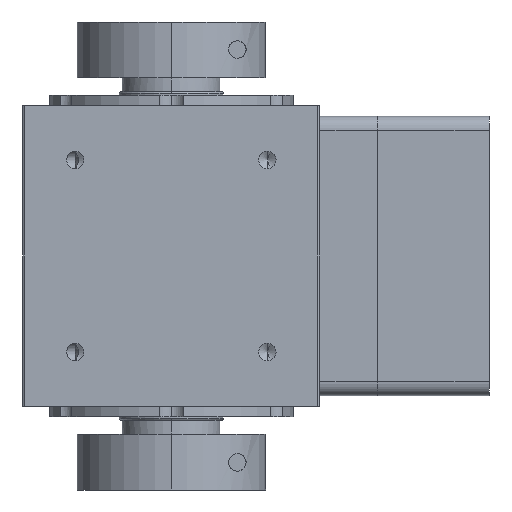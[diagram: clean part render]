
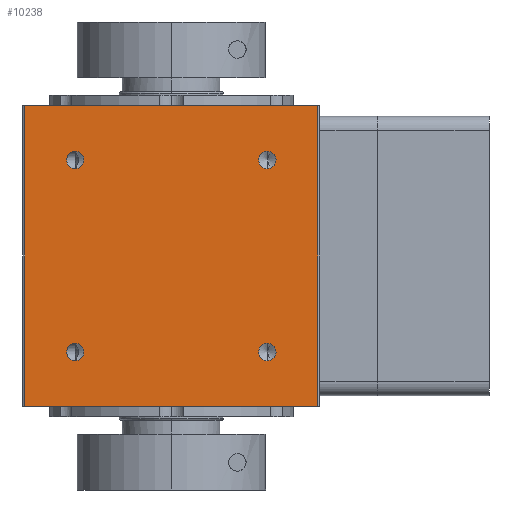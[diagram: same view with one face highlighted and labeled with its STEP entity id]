
A CAD part, left-side view. The second image highlights one B-rep face of the part: STEP entity #10238.
In plain terms, the highlighted planar face has unit normal (-1, 0, 0).
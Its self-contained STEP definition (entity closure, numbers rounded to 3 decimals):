
#7 = ORIENTED_EDGE ( 'NONE', *, *, #12200, .F. ) ;
#129 = ORIENTED_EDGE ( 'NONE', *, *, #9479, .T. ) ;
#309 = CIRCLE ( 'NONE', #2994, 2.5 ) ;
#519 = DIRECTION ( 'NONE',  ( -1., 0., 0. ) ) ;
#570 = DIRECTION ( 'NONE',  ( 0., 0., 1. ) ) ;
#633 = AXIS2_PLACEMENT_3D ( 'NONE', #14093, #4833, #12992 ) ;
#683 = VECTOR ( 'NONE', #6564, 1000. ) ;
#725 = DIRECTION ( 'NONE',  ( 0., 0., 1. ) ) ;
#897 = CARTESIAN_POINT ( 'NONE',  ( -42.5, 42.5, -43. ) ) ;
#1311 = CARTESIAN_POINT ( 'NONE',  ( -42.5, 42.5, 43. ) ) ;
#1706 = CIRCLE ( 'NONE', #6720, 2.5 ) ;
#1839 = CARTESIAN_POINT ( 'NONE',  ( -42.5, 27.5, -27.5 ) ) ;
#1932 = CIRCLE ( 'NONE', #9617, 2.5 ) ;
#2209 = FACE_BOUND ( 'NONE', #9442, .T. ) ;
#2391 = DIRECTION ( 'NONE',  ( -1., 0., 0. ) ) ;
#2413 = VECTOR ( 'NONE', #11438, 1000. ) ;
#2491 = DIRECTION ( 'NONE',  ( 0., 0., 1. ) ) ;
#2616 = ORIENTED_EDGE ( 'NONE', *, *, #6781, .F. ) ;
#2675 = CARTESIAN_POINT ( 'NONE',  ( -42.5, -27.5, 27.5 ) ) ;
#2952 = EDGE_CURVE ( 'NONE', #5175, #7455, #13159, .T. ) ;
#2994 = AXIS2_PLACEMENT_3D ( 'NONE', #7353, #10766, #14133 ) ;
#3146 = LINE ( 'NONE', #897, #2413 ) ;
#3628 = AXIS2_PLACEMENT_3D ( 'NONE', #11157, #9964, #570 ) ;
#3634 = DIRECTION ( 'NONE',  ( 0., 0., -1. ) ) ;
#3687 = CIRCLE ( 'NONE', #633, 2.5 ) ;
#3796 = DIRECTION ( 'NONE',  ( 0., -1., 0. ) ) ;
#3852 = VERTEX_POINT ( 'NONE', #4919 ) ;
#3897 = CARTESIAN_POINT ( 'NONE',  ( -42.5, 42., 43. ) ) ;
#3972 = VERTEX_POINT ( 'NONE', #9859 ) ;
#4290 = EDGE_CURVE ( 'NONE', #3852, #4830, #4526, .T. ) ;
#4526 = LINE ( 'NONE', #6511, #683 ) ;
#4792 = FACE_BOUND ( 'NONE', #9397, .T. ) ;
#4830 = VERTEX_POINT ( 'NONE', #8087 ) ;
#4833 = DIRECTION ( 'NONE',  ( -1., 0., 0. ) ) ;
#4919 = CARTESIAN_POINT ( 'NONE',  ( -42.5, -42., -43. ) ) ;
#5011 = ORIENTED_EDGE ( 'NONE', *, *, #12660, .F. ) ;
#5175 = VERTEX_POINT ( 'NONE', #7959 ) ;
#5187 = EDGE_LOOP ( 'NONE', ( #5011, #6814 ) ) ;
#5890 = DIRECTION ( 'NONE',  ( -1., 0., 0. ) ) ;
#5908 = ORIENTED_EDGE ( 'NONE', *, *, #4290, .T. ) ;
#5932 = AXIS2_PLACEMENT_3D ( 'NONE', #8553, #12085, #3796 ) ;
#6156 = CARTESIAN_POINT ( 'NONE',  ( -42.5, -27.5, 27.5 ) ) ;
#6232 = DIRECTION ( 'NONE',  ( 0., 0., 1. ) ) ;
#6249 = CARTESIAN_POINT ( 'NONE',  ( -42.5, 27.5, 25. ) ) ;
#6330 = EDGE_CURVE ( 'NONE', #7170, #6872, #6344, .T. ) ;
#6344 = CIRCLE ( 'NONE', #9948, 2.5 ) ;
#6374 = EDGE_LOOP ( 'NONE', ( #10810, #8464 ) ) ;
#6511 = CARTESIAN_POINT ( 'NONE',  ( -42.5, -42., -43. ) ) ;
#6564 = DIRECTION ( 'NONE',  ( 0., 0., 1. ) ) ;
#6620 = CARTESIAN_POINT ( 'NONE',  ( -42.5, -27.5, -25. ) ) ;
#6720 = AXIS2_PLACEMENT_3D ( 'NONE', #7256, #5890, #8435 ) ;
#6781 = EDGE_CURVE ( 'NONE', #7455, #5175, #1706, .T. ) ;
#6814 = ORIENTED_EDGE ( 'NONE', *, *, #7902, .F. ) ;
#6833 = FACE_BOUND ( 'NONE', #5187, .T. ) ;
#6872 = VERTEX_POINT ( 'NONE', #8984 ) ;
#7170 = VERTEX_POINT ( 'NONE', #6620 ) ;
#7256 = CARTESIAN_POINT ( 'NONE',  ( -42.5, 27.5, 27.5 ) ) ;
#7353 = CARTESIAN_POINT ( 'NONE',  ( -42.5, 27.5, -27.5 ) ) ;
#7455 = VERTEX_POINT ( 'NONE', #6249 ) ;
#7902 = EDGE_CURVE ( 'NONE', #10286, #13462, #8011, .T. ) ;
#7938 = FACE_OUTER_BOUND ( 'NONE', #12293, .T. ) ;
#7959 = CARTESIAN_POINT ( 'NONE',  ( -42.5, 27.5, 30. ) ) ;
#8011 = CIRCLE ( 'NONE', #13887, 2.5 ) ;
#8087 = CARTESIAN_POINT ( 'NONE',  ( -42.5, -42., 43. ) ) ;
#8267 = CARTESIAN_POINT ( 'NONE',  ( -42.5, -27.5, -27.5 ) ) ;
#8399 = CARTESIAN_POINT ( 'NONE',  ( -42.5, 42., -43. ) ) ;
#8435 = DIRECTION ( 'NONE',  ( 0., 0., 1. ) ) ;
#8464 = ORIENTED_EDGE ( 'NONE', *, *, #10128, .F. ) ;
#8538 = DIRECTION ( 'NONE',  ( -1., 0., 0. ) ) ;
#8553 = CARTESIAN_POINT ( 'NONE',  ( -42.5, 42.5, -43. ) ) ;
#8723 = VECTOR ( 'NONE', #13107, 1000. ) ;
#8878 = EDGE_CURVE ( 'NONE', #10152, #4830, #11416, .T. ) ;
#8984 = CARTESIAN_POINT ( 'NONE',  ( -42.5, -27.5, -30. ) ) ;
#9355 = DIRECTION ( 'NONE',  ( 0., 0., 1. ) ) ;
#9397 = EDGE_LOOP ( 'NONE', ( #9911, #7 ) ) ;
#9442 = EDGE_LOOP ( 'NONE', ( #14670, #2616 ) ) ;
#9479 = EDGE_CURVE ( 'NONE', #11747, #3852, #3146, .T. ) ;
#9480 = ORIENTED_EDGE ( 'NONE', *, *, #11778, .T. ) ;
#9518 = CIRCLE ( 'NONE', #14819, 2.5 ) ;
#9617 = AXIS2_PLACEMENT_3D ( 'NONE', #6156, #8538, #2491 ) ;
#9859 = CARTESIAN_POINT ( 'NONE',  ( -42.5, -27.5, 30. ) ) ;
#9911 = ORIENTED_EDGE ( 'NONE', *, *, #13087, .F. ) ;
#9948 = AXIS2_PLACEMENT_3D ( 'NONE', #8267, #2391, #9355 ) ;
#9964 = DIRECTION ( 'NONE',  ( -1., 0., 0. ) ) ;
#10128 = EDGE_CURVE ( 'NONE', #6872, #7170, #3687, .T. ) ;
#10152 = VERTEX_POINT ( 'NONE', #3897 ) ;
#10238 = ADVANCED_FACE ( 'NONE', ( #2209, #6833, #13719, #4792, #7938 ), #10826, .T. ) ;
#10286 = VERTEX_POINT ( 'NONE', #12226 ) ;
#10766 = DIRECTION ( 'NONE',  ( -1., 0., 0. ) ) ;
#10810 = ORIENTED_EDGE ( 'NONE', *, *, #6330, .F. ) ;
#10826 = PLANE ( 'NONE',  #5932 ) ;
#11157 = CARTESIAN_POINT ( 'NONE',  ( -42.5, 27.5, 27.5 ) ) ;
#11416 = LINE ( 'NONE', #1311, #8723 ) ;
#11438 = DIRECTION ( 'NONE',  ( 0., -1., 0. ) ) ;
#11728 = VERTEX_POINT ( 'NONE', #13047 ) ;
#11747 = VERTEX_POINT ( 'NONE', #8399 ) ;
#11778 = EDGE_CURVE ( 'NONE', #10152, #11747, #12406, .T. ) ;
#11824 = CARTESIAN_POINT ( 'NONE',  ( -42.5, 42., -43. ) ) ;
#12085 = DIRECTION ( 'NONE',  ( -1., 0., 0. ) ) ;
#12200 = EDGE_CURVE ( 'NONE', #11728, #3972, #9518, .T. ) ;
#12226 = CARTESIAN_POINT ( 'NONE',  ( -42.5, 27.5, -30. ) ) ;
#12293 = EDGE_LOOP ( 'NONE', ( #129, #5908, #14703, #9480 ) ) ;
#12406 = LINE ( 'NONE', #11824, #14556 ) ;
#12660 = EDGE_CURVE ( 'NONE', #13462, #10286, #309, .T. ) ;
#12992 = DIRECTION ( 'NONE',  ( 0., 0., 1. ) ) ;
#13047 = CARTESIAN_POINT ( 'NONE',  ( -42.5, -27.5, 25. ) ) ;
#13087 = EDGE_CURVE ( 'NONE', #3972, #11728, #1932, .T. ) ;
#13107 = DIRECTION ( 'NONE',  ( 0., -1., 0. ) ) ;
#13159 = CIRCLE ( 'NONE', #3628, 2.5 ) ;
#13462 = VERTEX_POINT ( 'NONE', #13801 ) ;
#13719 = FACE_BOUND ( 'NONE', #6374, .T. ) ;
#13801 = CARTESIAN_POINT ( 'NONE',  ( -42.5, 27.5, -25. ) ) ;
#13887 = AXIS2_PLACEMENT_3D ( 'NONE', #1839, #14550, #725 ) ;
#14093 = CARTESIAN_POINT ( 'NONE',  ( -42.5, -27.5, -27.5 ) ) ;
#14133 = DIRECTION ( 'NONE',  ( 0., 0., 1. ) ) ;
#14550 = DIRECTION ( 'NONE',  ( -1., 0., 0. ) ) ;
#14556 = VECTOR ( 'NONE', #3634, 1000. ) ;
#14670 = ORIENTED_EDGE ( 'NONE', *, *, #2952, .F. ) ;
#14703 = ORIENTED_EDGE ( 'NONE', *, *, #8878, .F. ) ;
#14819 = AXIS2_PLACEMENT_3D ( 'NONE', #2675, #519, #6232 ) ;
